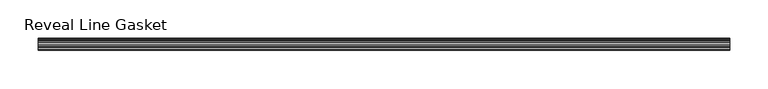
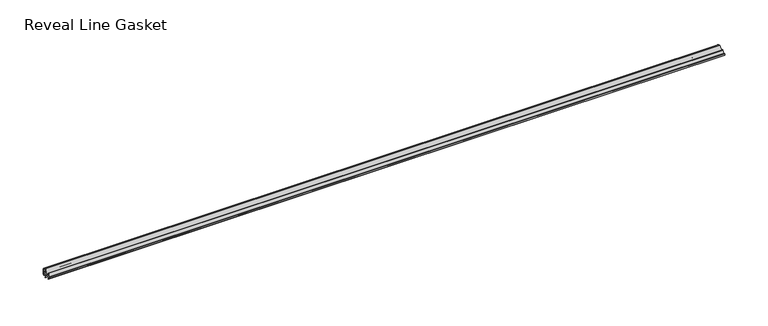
"""IFC4 building model written with IfcOpenShell, lengths in millimetres: proxy geometry, Accessories-Teknion-FHGR-AI_Healthcare-Reveal_Line_Gasket(Horizontal)-R2022 : Reveal Line Gasket."""

import ifcopenshell
import ifcopenshell.guid

model = None  # the IFC model being written
_history = None  # IfcOwnerHistory: only IFC2X3 demands one
_inside = {}  # id of a spatial element -> (the spatial element, [elements in it])
_under = {}  # id of a project, library or spatial element -> (it, [spatial elements below it])
_declared = {}  # id of a project -> (the project, [libraries it declares])
_typed = {}  # id of a type object -> (the type object, [elements of that type])
_made_of = {}  # id of a material, layer set ... -> (it, [elements and type objects made of it])


def new_model(schema):
    """Start an empty IFC model of exactly this schema.

    Asked for "IFC4X3", IfcOpenShell would pick the latest addendum, in which some entities
    have other attributes; the version numbers below select the first issue.
    IFC2X3 requires an IfcOwnerHistory on every rooted entity: one is made here for all.
    """
    global model, _history
    if schema == "IFC4X3":
        model = ifcopenshell.file(schema_version=(4, 3, 0, 0))
    else:
        model = ifcopenshell.file(schema=schema)
    _inside.clear()
    _under.clear()
    _declared.clear()
    _typed.clear()
    _made_of.clear()
    _history = None
    if model.schema == "IFC2X3":
        org = make("IfcOrganization", Name="unknown")
        user = make(
            "IfcPersonAndOrganization",
            ThePerson=make("IfcPerson", FamilyName="unknown"),
            TheOrganization=org,
        )
        app = make(
            "IfcApplication",
            ApplicationDeveloper=org,
            Version="unknown",
            ApplicationFullName="unknown",
            ApplicationIdentifier="unknown",
        )
        _history = make(
            "IfcOwnerHistory",
            OwningUser=user,
            OwningApplication=app,
            ChangeAction="ADDED",
            CreationDate=0,
        )
    return model


def make(cls, **values):
    """One entity of the class cls with the attributes given. An attribute that is None is left unset."""
    return model.create_entity(
        cls, **{name: value for name, value in values.items() if value is not None}
    )


def rooted(cls, **values):
    """An entity with a GlobalId (a new one), such as an element, a storey or a relation."""
    return make(cls, GlobalId=ifcopenshell.guid.new(), OwnerHistory=_history, **values)


def si_unit(unit_type, name, prefix=None):
    """IfcSIUnit, for example si_unit("LENGTHUNIT", "METRE", prefix="MILLI")."""
    return make("IfcSIUnit", UnitType=unit_type, Prefix=prefix, Name=name)


def assignment(units):
    """IfcUnitAssignment: the units of a project."""
    return None if units is None else make("IfcUnitAssignment", Units=units)


def point(xyz):
    """IfcCartesianPoint."""
    return None if xyz is None else make("IfcCartesianPoint", Coordinates=xyz)


def direction(xyz):
    """IfcDirection."""
    return None if xyz is None else make("IfcDirection", DirectionRatios=xyz)


def frame(location, z_axis=None, x_axis=None):
    """IfcAxis2Placement3D, a coordinate frame: its origin and axes. An axis left out is left unset."""
    return make(
        "IfcAxis2Placement3D",
        Location=point(location),
        Axis=direction(z_axis),
        RefDirection=direction(x_axis),
    )


def frame_2d(location, x_axis=None):
    """IfcAxis2Placement2D, a coordinate frame in the plane: its origin and x axis."""
    return make(
        "IfcAxis2Placement2D", Location=point(location), RefDirection=direction(x_axis)
    )


def origin():
    """The frame at (0, 0, 0) with its axes left unset."""
    return frame((0.0, 0.0, 0.0))


def place(relative_to, where):
    """IfcLocalPlacement: puts the frame where relative to a parent placement (None: the world)."""
    return make(
        "IfcLocalPlacement", PlacementRelTo=relative_to, RelativePlacement=where
    )


def context(
    kind, dimensions, precision=None, world=None, true_north=None, identifier=None
):
    """IfcGeometricRepresentationContext, for example the 3D "Model" context."""
    return make(
        "IfcGeometricRepresentationContext",
        ContextIdentifier=identifier,
        ContextType=kind,
        CoordinateSpaceDimension=dimensions,
        Precision=precision,
        WorldCoordinateSystem=world,
        TrueNorth=true_north,
    )


def project(units=None, contexts=None):
    """IfcProject with its units and contexts."""
    return rooted(
        "IfcProject",
        Name="project",
        RepresentationContexts=contexts,
        UnitsInContext=assignment(units),
    )


def spatial(cls, under=None, at=None, **own):
    """A site, building, storey or space (cls), placed at a placement, below another one or the project."""
    s = rooted(cls, ObjectPlacement=at, **own)
    if under is not None:
        _under.setdefault(under.id(), (under, []))[1].append(s)
    return s


def polyline(points):
    """IfcPolyline through the points."""
    return make("IfcPolyline", Points=[point(p) for p in points])


def circle_curve(where, radius):
    """IfcCircle in the frame where."""
    return make("IfcCircle", Position=where, Radius=radius)


def trimmed(basis, trim1, trim2, sense, master):
    """IfcTrimmedCurve: the piece of a basis curve between two trims."""
    return make(
        "IfcTrimmedCurve",
        BasisCurve=basis,
        Trim1=trim1,
        Trim2=trim2,
        SenseAgreement=sense,
        MasterRepresentation=master,
    )


def segment(curve, same_sense, transition):
    """IfcCompositeCurveSegment."""
    return make(
        "IfcCompositeCurveSegment",
        Transition=transition,
        SameSense=same_sense,
        ParentCurve=curve,
    )


def composite_curve(segments, self_intersect=None):
    """IfcCompositeCurve: segments joined end to end."""
    return make("IfcCompositeCurve", Segments=segments, SelfIntersect=self_intersect)


def outline(outer, holes=None, kind="AREA"):
    """IfcArbitraryClosedProfileDef: a profile drawn as a closed curve; with holes, ...WithVoids."""
    if holes is None:
        return make("IfcArbitraryClosedProfileDef", ProfileType=kind, OuterCurve=outer)
    return make(
        "IfcArbitraryProfileDefWithVoids",
        ProfileType=kind,
        OuterCurve=outer,
        InnerCurves=holes,
    )


def extrude(swept, where, along, depth):
    """IfcExtrudedAreaSolid: the profile swept, set in the frame where, extruded along a direction by depth."""
    return make(
        "IfcExtrudedAreaSolid",
        SweptArea=swept,
        Position=where,
        ExtrudedDirection=direction(along),
        Depth=depth,
    )


def shape(context_of_items, identifier, shape_type, items):
    """IfcShapeRepresentation: the items that make up one representation, for example the "Body"."""
    return make(
        "IfcShapeRepresentation",
        ContextOfItems=context_of_items,
        RepresentationIdentifier=identifier,
        RepresentationType=shape_type,
        Items=items,
    )


def source(mapping_origin, context_of_items, identifier, shape_type, items):
    """IfcRepresentationMap: a shape defined once, which mapped items show again and again."""
    return make(
        "IfcRepresentationMap",
        MappingOrigin=mapping_origin,
        MappedRepresentation=shape(context_of_items, identifier, shape_type, items),
    )


def transform(
    local_origin,
    x_axis=None,
    y_axis=None,
    z_axis=None,
    scale=None,
    scale2=None,
    scale3=None,
    uniform=True,
):
    """IfcCartesianTransformationOperator3D, or its non-uniform kind. x_axis, y_axis, z_axis: its Axis1, 2, 3."""
    if uniform:
        return make(
            "IfcCartesianTransformationOperator3D",
            Axis1=direction(x_axis),
            Axis2=direction(y_axis),
            LocalOrigin=point(local_origin),
            Scale=scale,
            Axis3=direction(z_axis),
        )
    return make(
        "IfcCartesianTransformationOperator3DnonUniform",
        Axis1=direction(x_axis),
        Axis2=direction(y_axis),
        LocalOrigin=point(local_origin),
        Scale=scale,
        Axis3=direction(z_axis),
        Scale2=scale2,
        Scale3=scale3,
    )


def mapped(mapping_source, mapping_target):
    """IfcMappedItem: shows the shape of a source again, moved by a transform."""
    return make(
        "IfcMappedItem", MappingSource=mapping_source, MappingTarget=mapping_target
    )


def made_of(thing, what):
    """Note that an element or type object is made of a material, layer set ...; save() writes the relation."""
    if what is not None:
        _made_of.setdefault(what.id(), (what, []))[1].append(thing)
    return thing


def element(
    cls,
    number,
    at=None,
    inside=None,
    cuts=None,
    type_object=None,
    material=None,
    context=None,
    identifier="Body",
    shape_type=None,
    held_by="IfcProductDefinitionShape",
    body=None,
    shapes=None,
    **own,
):
    """One element of the class cls, such as IfcWall. Its Tag is "e" and its number.

    at: its placement. inside: the storey or other place that contains it. cuts: it is an
    opening in that element (IfcRelVoidsElement). A single representation is given by context,
    identifier, shape_type and body (its items); several are given by shapes. held_by: the class
    of the entity that holds the representations. save() writes the other relations.
    """
    e = rooted(cls, Tag="e%d" % number, ObjectPlacement=at, **own)
    if body is not None:
        shapes = [shape(context, identifier, shape_type, body)]
    if shapes is not None:
        e.Representation = make(held_by, Representations=shapes)
    if inside is not None:
        _inside.setdefault(inside.id(), (inside, []))[1].append(e)
    if cuts is not None:
        rooted(
            "IfcRelVoidsElement", RelatingBuildingElement=cuts, RelatedOpeningElement=e
        )
    if type_object is not None:
        _typed.setdefault(type_object.id(), (type_object, []))[1].append(e)
    return made_of(e, material)


def aggregate(whole, parts):
    """IfcRelAggregates: a whole, such as a stair, and the parts it consists of."""
    return rooted("IfcRelAggregates", RelatingObject=whole, RelatedObjects=parts)


def save(model, path):
    """Write the relations noted so far, then the file.

    IfcRelAggregates (storeys below a building ...), IfcRelContainedInSpatialStructure (elements
    in a storey), IfcRelDefinesByType, IfcRelAssociatesMaterial and IfcRelDeclares: one each for
    every whole, place, type object, material and project.
    """
    for whole, parts in _under.values():
        aggregate(whole, parts)
    for where, things in _inside.values():
        rooted(
            "IfcRelContainedInSpatialStructure",
            RelatedElements=things,
            RelatingStructure=where,
        )
    for kind, things in _typed.values():
        rooted("IfcRelDefinesByType", RelatedObjects=things, RelatingType=kind)
    for what, things in _made_of.values():
        rooted("IfcRelAssociatesMaterial", RelatedObjects=things, RelatingMaterial=what)
    for by, libraries in _declared.values():
        rooted("IfcRelDeclares", RelatingContext=by, RelatedDefinitions=libraries)
    model.write(path)


def reveal_line_gasket_125bad6a(model_context):
    return source(origin(), model_context, "Body", "SweptSolid", [
        extrude(outline(composite_curve([segment(polyline([(7.6326998, 1603.2), (7.6326998, 1597.2), (7.4091917, 1596.2445073), (6.8813059, 1595.3115316)]), True, "CONTINUOUS"), segment(trimmed(circle_curve(frame_2d((6.5243141, 1595.5135207)), 0.4101739), [point((6.8813059, 1595.3115316))], [point((6.1246704, 1595.6058653))], False, "CARTESIAN"), True, "CONTINUOUS"), segment(polyline([(6.1246704, 1595.6058653), (6.3626997, 1597.3020914), (6.3626997, 1599.3345473)]), True, "CONTINUOUS"), segment(trimmed(circle_curve(frame_2d((5.6959605, 1598.9180742)), 0.786124), [point((6.3626997, 1599.3345473))], [point((5.0926996, 1599.422125))], True, "CARTESIAN"), True, "CONTINUOUS"), segment(polyline([(5.0926996, 1599.422125), (0.7492996, 1599.422125), (3.7293824, 1594.2604705)]), True, "CONTINUOUS"), segment(trimmed(circle_curve(frame_2d((3.3132479, 1594.1950239)), 0.4212495), [point((3.7293824, 1594.2604705))], [point((3.0485022, 1593.8673642))], False, "CARTESIAN"), True, "CONTINUOUS"), segment(polyline([(3.0485022, 1593.8673642), (-0.5742594, 1599.422125), (-4.8262978, 1599.422125), (-3.1660374, 1596.5464703)]), True, "CONTINUOUS"), segment(trimmed(circle_curve(frame_2d((-3.5978728, 1596.4881145)), 0.4357605), [point((-3.1660374, 1596.5464703))], [point((-3.864328, 1596.1433119))], False, "CARTESIAN"), True, "CONTINUOUS"), segment(polyline([(-3.864328, 1596.1433119), (-6.1944059, 1599.422125), (-7.6326998, 1599.422125), (-7.6326998, 1600.977875), (-6.1944059, 1600.977875), (-3.864328, 1604.2566881)]), True, "CONTINUOUS"), segment(trimmed(circle_curve(frame_2d((-3.5978728, 1603.9118855)), 0.4357605), [point((-3.864328, 1604.2566881))], [point((-3.1660374, 1603.8535297))], False, "CARTESIAN"), True, "CONTINUOUS"), segment(polyline([(-3.1660374, 1603.8535297), (-4.8262978, 1600.977875), (-0.5742594, 1600.977875), (3.0485022, 1606.5326358)]), True, "CONTINUOUS"), segment(trimmed(circle_curve(frame_2d((3.3132479, 1606.2049761)), 0.4212495), [point((3.0485022, 1606.5326358))], [point((3.7293824, 1606.1395295))], False, "CARTESIAN"), True, "CONTINUOUS"), segment(polyline([(3.7293824, 1606.1395295), (0.7492996, 1600.977875), (5.0926996, 1600.977875)]), True, "CONTINUOUS"), segment(trimmed(circle_curve(frame_2d((5.6959605, 1601.4819258)), 0.786124), [point((5.0926996, 1600.977875))], [point((6.3626997, 1601.0654527))], True, "CARTESIAN"), True, "CONTINUOUS"), segment(polyline([(6.3626997, 1601.0654527), (6.3626997, 1603.0979086), (6.1246704, 1604.7941347)]), True, "CONTINUOUS"), segment(trimmed(circle_curve(frame_2d((6.5243141, 1604.8864793)), 0.4101739), [point((6.1246704, 1604.7941347))], [point((6.8813059, 1605.0884684))], False, "CARTESIAN"), True, "CONTINUOUS"), segment(polyline([(6.8813059, 1605.0884684), (7.4091917, 1604.1554927), (7.6326998, 1603.2)]), True, "CONTINUOUS")], self_intersect=False)), frame((-448.9704, 0.0, 0.0), z_axis=(1.0, 0.0, 0.0), x_axis=(0.0, 1.0, 0.0)), (0.0, 0.0, 1.0), 897.9408),
    ])


if __name__ == "__main__":
    model = new_model("IFC4")
    model_context = context("Model", 3, world=origin())
    ifc_project = project(units=[si_unit("LENGTHUNIT", "METRE", prefix="MILLI")], contexts=[model_context])
    site = spatial("IfcSite", under=ifc_project)
    building = spatial("IfcBuilding", under=site)
    placement = place(None, origin())
    reveal_line_gasket_shape = reveal_line_gasket_125bad6a(model_context)
    element("IfcBuildingElementProxy", 1, Name="Accessories-Teknion-FHGR-AI_Healthcare-Reveal_Line_Gasket(Horizontal)-R2022 : Reveal Line Gasket", ObjectType="Accessories-Teknion-FHGR-AI_Healthcare-Reveal_Line_Gasket(Horizontal)-R2022 : Reveal Line Gasket", at=placement, inside=building, context=model_context, shape_type="MappedRepresentation", body=[
        mapped(reveal_line_gasket_shape, transform((0.0, 0.0, 0.0), x_axis=(1.0, 0.0, 0.0), y_axis=(0.0, 1.0, 0.0), z_axis=(0.0, 0.0, 1.0))),
    ])
    save(model, "model.ifc")
